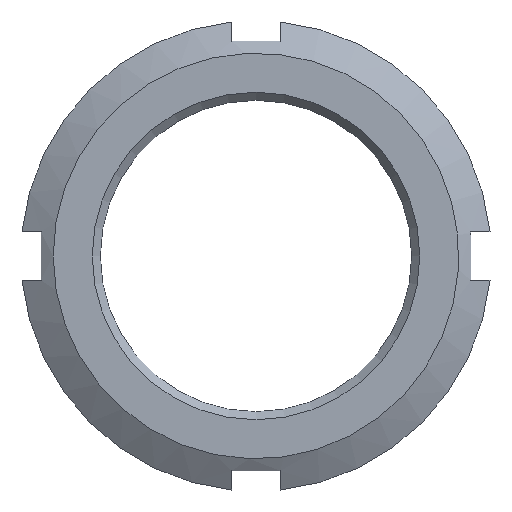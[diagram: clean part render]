
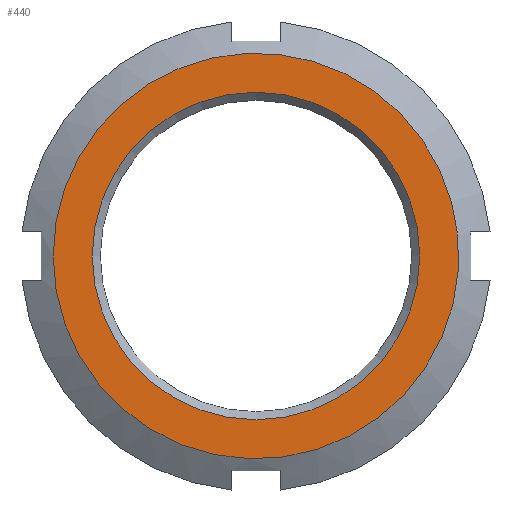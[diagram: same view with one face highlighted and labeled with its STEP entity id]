
A CAD part, left-side view. The second image highlights one B-rep face of the part: STEP entity #440.
In plain terms, the highlighted planar face has unit normal (-1, 0, 0).
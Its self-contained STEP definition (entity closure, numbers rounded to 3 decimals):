
#95=PLANE('',#471);
#116=FACE_BOUND('',#151,.T.);
#122=FACE_OUTER_BOUND('',#150,.T.);
#150=EDGE_LOOP('',(#309));
#151=EDGE_LOOP('',(#310));
#179=CIRCLE('',#468,20.188);
#181=CIRCLE('',#472,25.);
#196=VERTEX_POINT('',#629);
#198=VERTEX_POINT('',#635);
#241=EDGE_CURVE('',#196,#196,#179,.T.);
#243=EDGE_CURVE('',#198,#198,#181,.T.);
#309=ORIENTED_EDGE('',*,*,#243,.F.);
#310=ORIENTED_EDGE('',*,*,#241,.F.);
#440=ADVANCED_FACE('',(#122,#116),#95,.T.);
#468=AXIS2_PLACEMENT_3D('',#630,#515,#516);
#471=AXIS2_PLACEMENT_3D('',#634,#521,#522);
#472=AXIS2_PLACEMENT_3D('',#636,#523,#524);
#515=DIRECTION('center_axis',(-1.,0.,0.));
#516=DIRECTION('ref_axis',(0.,0.,-1.));
#521=DIRECTION('center_axis',(-1.,0.,0.));
#522=DIRECTION('ref_axis',(0.,0.,1.));
#523=DIRECTION('center_axis',(1.,0.,0.));
#524=DIRECTION('ref_axis',(0.,-1.,0.));
#629=CARTESIAN_POINT('',(0.,0.,20.188));
#630=CARTESIAN_POINT('Origin',(0.,0.,0.));
#634=CARTESIAN_POINT('Origin',(0.,14.5,0.));
#635=CARTESIAN_POINT('',(0.,25.,0.));
#636=CARTESIAN_POINT('Origin',(0.,0.,0.));
